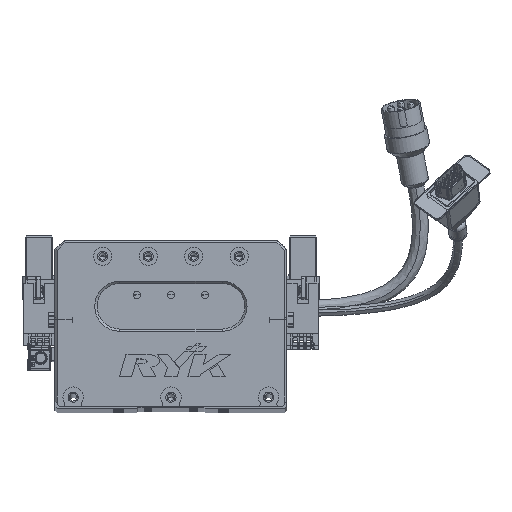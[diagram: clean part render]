
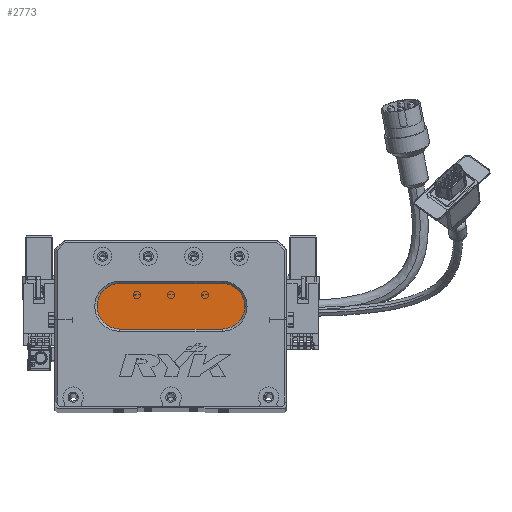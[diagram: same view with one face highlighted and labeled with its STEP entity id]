
A CAD part, top view. The second image highlights one B-rep face of the part: STEP entity #2773.
In plain terms, the highlighted planar face has unit normal (0, 0, 1) as drawn and (0, 0, -1) by its records, which use the part's own axes.
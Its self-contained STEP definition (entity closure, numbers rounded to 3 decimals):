
#2634 = CARTESIAN_POINT ( 'NONE',  ( 73.5, 34., 13. ) ) ;
#2773 = ADVANCED_FACE ( 'NONE', ( #25421 ), #10333, .T. ) ;
#4630 = CARTESIAN_POINT ( 'NONE',  ( 28.5, 34., 13. ) ) ;
#5255 = CIRCLE ( 'NONE', #14441, 10. ) ;
#7951 = DIRECTION ( 'NONE',  ( -1., 0., 0. ) ) ;
#8423 = EDGE_CURVE ( 'NONE', #62285, #28923, #43666, .T. ) ;
#10333 = PLANE ( 'NONE',  #13401 ) ;
#12910 = CARTESIAN_POINT ( 'NONE',  ( 73.5, 44., 13. ) ) ;
#13401 = AXIS2_PLACEMENT_3D ( 'NONE', #31876, #48114, #65167 ) ;
#13602 = CARTESIAN_POINT ( 'NONE',  ( 28.5, 44., 13. ) ) ;
#14441 = AXIS2_PLACEMENT_3D ( 'NONE', #43060, #47978, #31525 ) ;
#14761 = EDGE_CURVE ( 'NONE', #68288, #57387, #5255, .T. ) ;
#14886 = LINE ( 'NONE', #17925, #18331 ) ;
#15860 = EDGE_LOOP ( 'NONE', ( #36597, #30670, #38866, #55821, #46505 ) ) ;
#17925 = CARTESIAN_POINT ( 'NONE',  ( 73.5, 54., 13. ) ) ;
#18331 = VECTOR ( 'NONE', #66359, 1000. ) ;
#24112 = CIRCLE ( 'NONE', #25269, 10. ) ;
#25269 = AXIS2_PLACEMENT_3D ( 'NONE', #12910, #29041, #7951 ) ;
#25421 = FACE_OUTER_BOUND ( 'NONE', #15860, .T. ) ;
#28545 = CIRCLE ( 'NONE', #54955, 10. ) ;
#28923 = VERTEX_POINT ( 'NONE', #4630 ) ;
#29041 = DIRECTION ( 'NONE',  ( 0., 0., -1. ) ) ;
#29249 = DIRECTION ( 'NONE',  ( -1., 0., 0. ) ) ;
#30670 = ORIENTED_EDGE ( 'NONE', *, *, #8423, .T. ) ;
#31525 = DIRECTION ( 'NONE',  ( -1., 0., 0. ) ) ;
#31626 = EDGE_CURVE ( 'NONE', #55739, #62285, #24112, .T. ) ;
#31876 = CARTESIAN_POINT ( 'NONE',  ( 73.5, 44., 13. ) ) ;
#33987 = CARTESIAN_POINT ( 'NONE',  ( 28.5, 54., 13. ) ) ;
#36597 = ORIENTED_EDGE ( 'NONE', *, *, #31626, .T. ) ;
#38866 = ORIENTED_EDGE ( 'NONE', *, *, #56325, .T. ) ;
#40493 = CARTESIAN_POINT ( 'NONE',  ( 18.5, 44., 13. ) ) ;
#43060 = CARTESIAN_POINT ( 'NONE',  ( 28.5, 44., 13. ) ) ;
#43666 = LINE ( 'NONE', #2634, #45353 ) ;
#45353 = VECTOR ( 'NONE', #62702, 1000. ) ;
#45515 = DIRECTION ( 'NONE',  ( 0., 0., -1. ) ) ;
#46505 = ORIENTED_EDGE ( 'NONE', *, *, #68838, .T. ) ;
#46989 = CARTESIAN_POINT ( 'NONE',  ( 73.5, 34., 13. ) ) ;
#47481 = CARTESIAN_POINT ( 'NONE',  ( 73.5, 54., 13. ) ) ;
#47978 = DIRECTION ( 'NONE',  ( 0., 0., -1. ) ) ;
#48114 = DIRECTION ( 'NONE',  ( 0., 0., -1. ) ) ;
#54955 = AXIS2_PLACEMENT_3D ( 'NONE', #13602, #45515, #29249 ) ;
#55739 = VERTEX_POINT ( 'NONE', #47481 ) ;
#55821 = ORIENTED_EDGE ( 'NONE', *, *, #14761, .T. ) ;
#56325 = EDGE_CURVE ( 'NONE', #28923, #68288, #28545, .T. ) ;
#57387 = VERTEX_POINT ( 'NONE', #33987 ) ;
#62285 = VERTEX_POINT ( 'NONE', #46989 ) ;
#62702 = DIRECTION ( 'NONE',  ( -1., 0., 0. ) ) ;
#65167 = DIRECTION ( 'NONE',  ( -1., 0., 0. ) ) ;
#66359 = DIRECTION ( 'NONE',  ( 1., 0., 0. ) ) ;
#68288 = VERTEX_POINT ( 'NONE', #40493 ) ;
#68838 = EDGE_CURVE ( 'NONE', #57387, #55739, #14886, .T. ) ;
